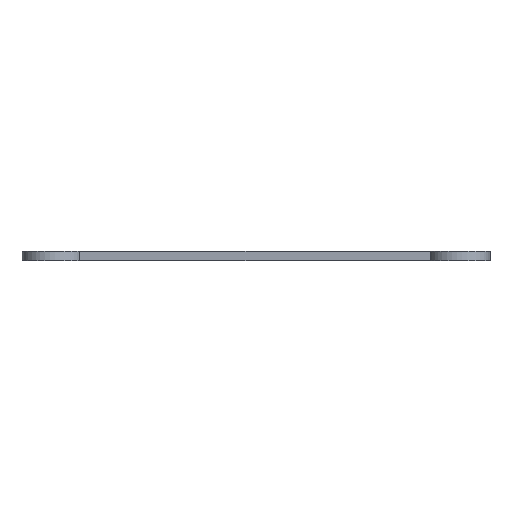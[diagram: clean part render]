
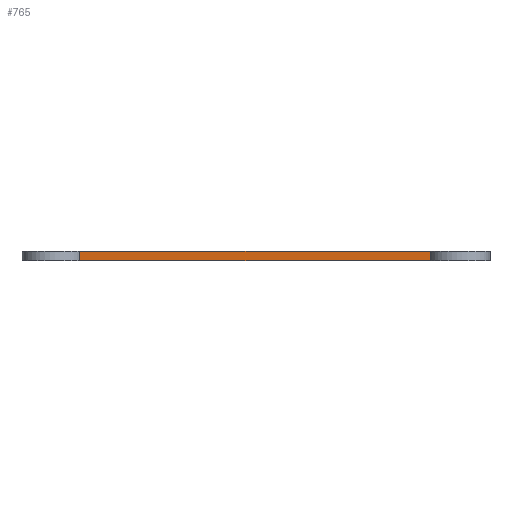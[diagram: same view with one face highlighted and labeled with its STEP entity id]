
A CAD part, left-side view. The second image highlights one B-rep face of the part: STEP entity #765.
In plain terms, the highlighted planar face has unit normal (-0.996, 0.086, 0).
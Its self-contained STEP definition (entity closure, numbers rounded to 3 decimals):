
#24 = VERTEX_POINT('',#25);
#25 = CARTESIAN_POINT('',(6.788,53.934,0.));
#33 = PLANE('',#34);
#34 = AXIS2_PLACEMENT_3D('',#35,#36,#37);
#35 = CARTESIAN_POINT('',(4.,4.,0.));
#36 = DIRECTION('',(0.,0.,1.));
#37 = DIRECTION('',(1.,0.,-0.));
#45 = CYLINDRICAL_SURFACE('',#46,4.);
#46 = AXIS2_PLACEMENT_3D('',#47,#48,#49);
#47 = CARTESIAN_POINT('',(8.6,57.5,0.));
#48 = DIRECTION('',(-0.,-0.,-1.));
#49 = DIRECTION('',(1.,0.,0.));
#57 = EDGE_CURVE('',#58,#24,#60,.T.);
#58 = VERTEX_POINT('',#59);
#59 = CARTESIAN_POINT('',(2.823,7.823,0.));
#60 = SURFACE_CURVE('',#61,(#65,#72),.PCURVE_S1.);
#61 = LINE('',#62,#63);
#62 = CARTESIAN_POINT('',(2.506,4.128,0.));
#63 = VECTOR('',#64,1.);
#64 = DIRECTION('',(0.086,0.996,0.));
#65 = PCURVE('',#33,#66);
#66 = DEFINITIONAL_REPRESENTATION('',(#67),#71);
#67 = LINE('',#68,#69);
#68 = CARTESIAN_POINT('',(-1.494,0.128));
#69 = VECTOR('',#70,1.);
#70 = DIRECTION('',(0.086,0.996));
#71 = ( GEOMETRIC_REPRESENTATION_CONTEXT(2) 
PARAMETRIC_REPRESENTATION_CONTEXT() REPRESENTATION_CONTEXT('2D SPACE',''
  ) );
#72 = PCURVE('',#73,#78);
#73 = PLANE('',#74);
#74 = AXIS2_PLACEMENT_3D('',#75,#76,#77);
#75 = CARTESIAN_POINT('',(2.506,4.128,0.));
#76 = DIRECTION('',(-0.996,0.086,0.));
#77 = DIRECTION('',(0.086,0.996,0.));
#78 = DEFINITIONAL_REPRESENTATION('',(#79),#83);
#79 = LINE('',#80,#81);
#80 = CARTESIAN_POINT('',(0.,0.));
#81 = VECTOR('',#82,1.);
#82 = DIRECTION('',(1.,0.));
#83 = ( GEOMETRIC_REPRESENTATION_CONTEXT(2) 
PARAMETRIC_REPRESENTATION_CONTEXT() REPRESENTATION_CONTEXT('2D SPACE',''
  ) );
#102 = CYLINDRICAL_SURFACE('',#103,4.);
#103 = AXIS2_PLACEMENT_3D('',#104,#105,#106);
#104 = CARTESIAN_POINT('',(4.,4.,0.));
#105 = DIRECTION('',(-0.,-0.,-1.));
#106 = DIRECTION('',(1.,0.,0.));
#668 = VERTEX_POINT('',#669);
#669 = CARTESIAN_POINT('',(6.788,53.934,1.2));
#684 = PLANE('',#685);
#685 = AXIS2_PLACEMENT_3D('',#686,#687,#688);
#686 = CARTESIAN_POINT('',(102.,4.,1.2));
#687 = DIRECTION('',(0.,0.,1.));
#688 = DIRECTION('',(1.,0.,-0.));
#696 = EDGE_CURVE('',#668,#24,#697,.T.);
#697 = SURFACE_CURVE('',#698,(#702,#709),.PCURVE_S1.);
#698 = LINE('',#699,#700);
#699 = CARTESIAN_POINT('',(6.788,53.934,0.));
#700 = VECTOR('',#701,1.);
#701 = DIRECTION('',(-0.,-0.,-1.));
#702 = PCURVE('',#45,#703);
#703 = DEFINITIONAL_REPRESENTATION('',(#704),#708);
#704 = LINE('',#705,#706);
#705 = CARTESIAN_POINT('',(-4.242,0.));
#706 = VECTOR('',#707,1.);
#707 = DIRECTION('',(-0.,1.));
#708 = ( GEOMETRIC_REPRESENTATION_CONTEXT(2) 
PARAMETRIC_REPRESENTATION_CONTEXT() REPRESENTATION_CONTEXT('2D SPACE',''
  ) );
#709 = PCURVE('',#73,#710);
#710 = DEFINITIONAL_REPRESENTATION('',(#711),#715);
#711 = LINE('',#712,#713);
#712 = CARTESIAN_POINT('',(49.989,0.));
#713 = VECTOR('',#714,1.);
#714 = DIRECTION('',(0.,1.));
#715 = ( GEOMETRIC_REPRESENTATION_CONTEXT(2) 
PARAMETRIC_REPRESENTATION_CONTEXT() REPRESENTATION_CONTEXT('2D SPACE',''
  ) );
#765 = ADVANCED_FACE('',(#766),#73,.T.);
#766 = FACE_BOUND('',#767,.T.);
#767 = EDGE_LOOP('',(#768,#769,#792,#813));
#768 = ORIENTED_EDGE('',*,*,#57,.F.);
#769 = ORIENTED_EDGE('',*,*,#770,.F.);
#770 = EDGE_CURVE('',#771,#58,#773,.T.);
#771 = VERTEX_POINT('',#772);
#772 = CARTESIAN_POINT('',(2.823,7.823,1.2));
#773 = SURFACE_CURVE('',#774,(#778,#785),.PCURVE_S1.);
#774 = LINE('',#775,#776);
#775 = CARTESIAN_POINT('',(2.823,7.823,0.));
#776 = VECTOR('',#777,1.);
#777 = DIRECTION('',(-0.,-0.,-1.));
#778 = PCURVE('',#73,#779);
#779 = DEFINITIONAL_REPRESENTATION('',(#780),#784);
#780 = LINE('',#781,#782);
#781 = CARTESIAN_POINT('',(3.708,0.));
#782 = VECTOR('',#783,1.);
#783 = DIRECTION('',(0.,1.));
#784 = ( GEOMETRIC_REPRESENTATION_CONTEXT(2) 
PARAMETRIC_REPRESENTATION_CONTEXT() REPRESENTATION_CONTEXT('2D SPACE',''
  ) );
#785 = PCURVE('',#102,#786);
#786 = DEFINITIONAL_REPRESENTATION('',(#787),#791);
#787 = LINE('',#788,#789);
#788 = CARTESIAN_POINT('',(-1.869,0.));
#789 = VECTOR('',#790,1.);
#790 = DIRECTION('',(-0.,1.));
#791 = ( GEOMETRIC_REPRESENTATION_CONTEXT(2) 
PARAMETRIC_REPRESENTATION_CONTEXT() REPRESENTATION_CONTEXT('2D SPACE',''
  ) );
#792 = ORIENTED_EDGE('',*,*,#793,.T.);
#793 = EDGE_CURVE('',#771,#668,#794,.T.);
#794 = SURFACE_CURVE('',#795,(#799,#806),.PCURVE_S1.);
#795 = LINE('',#796,#797);
#796 = CARTESIAN_POINT('',(2.506,4.128,1.2));
#797 = VECTOR('',#798,1.);
#798 = DIRECTION('',(0.086,0.996,0.));
#799 = PCURVE('',#73,#800);
#800 = DEFINITIONAL_REPRESENTATION('',(#801),#805);
#801 = LINE('',#802,#803);
#802 = CARTESIAN_POINT('',(0.,-1.2));
#803 = VECTOR('',#804,1.);
#804 = DIRECTION('',(1.,0.));
#805 = ( GEOMETRIC_REPRESENTATION_CONTEXT(2) 
PARAMETRIC_REPRESENTATION_CONTEXT() REPRESENTATION_CONTEXT('2D SPACE',''
  ) );
#806 = PCURVE('',#684,#807);
#807 = DEFINITIONAL_REPRESENTATION('',(#808),#812);
#808 = LINE('',#809,#810);
#809 = CARTESIAN_POINT('',(-99.494,0.128));
#810 = VECTOR('',#811,1.);
#811 = DIRECTION('',(0.086,0.996));
#812 = ( GEOMETRIC_REPRESENTATION_CONTEXT(2) 
PARAMETRIC_REPRESENTATION_CONTEXT() REPRESENTATION_CONTEXT('2D SPACE',''
  ) );
#813 = ORIENTED_EDGE('',*,*,#696,.T.);
